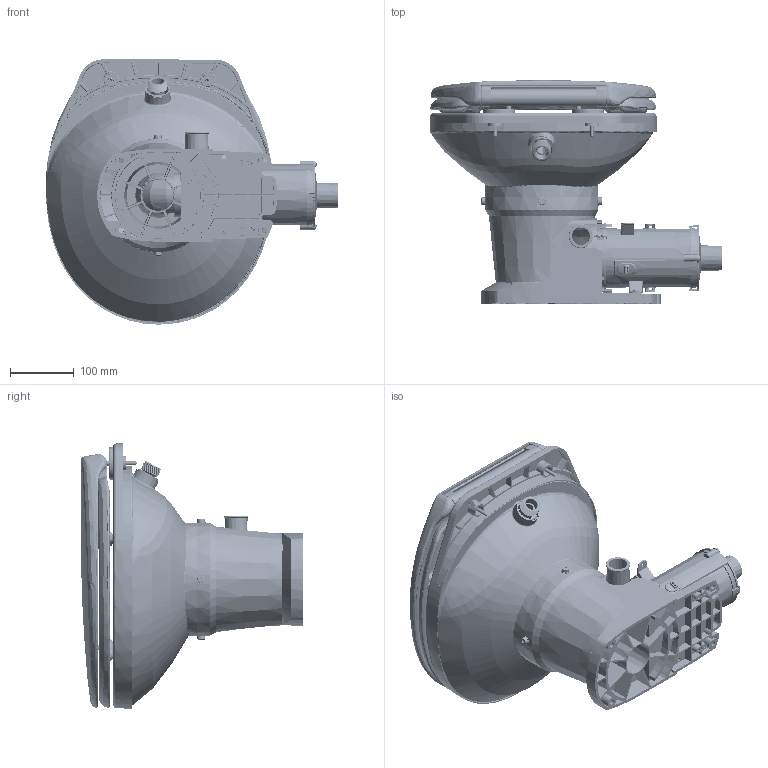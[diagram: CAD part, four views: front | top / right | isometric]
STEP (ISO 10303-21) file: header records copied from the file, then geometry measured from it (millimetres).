
FILE_DESCRIPTION (( 'STEP AP214' ), '1' );
FILE_NAME ('Maxlite +S moteur gauche b.STEP', '2019-02-27T13:09:49', ( '' ), ( '' ), 'SwSTEP 2.0', 'SolidWorks 2018', '' );
FILE_SCHEMA (( 'AUTOMOTIVE_DESIGN' ));
Length unit declared in the file: millimetre
Products named in the file (1): Maxlite +S moteur gauche b
Bounding box: 460.38 x 350.76 x 417.45 mm (x, y, z)
Volume: 4209497.5 mm3; surface area: 1848424 mm2
Topology: 42 solids, 42 shells, 4840 faces, 12904 edges, 8187 vertices
Faces by surface type: plane 1610, bspline 1158, cylinder 1089, cone 732, torus 168, sphere 83
Full cylindrical faces by diameter (mm): 4 x6, 5.5 x1, 21.9 x1, 33.7 x1, 58.9 x1, 73.6 x1, 93 x1, 100.5 x2
Entity records: 374110 total; most frequent: CARTESIAN_POINT 215832, ORIENTED_EDGE 25404, DIRECTION 17213, EDGE_CURVE 12702, VERTEX_POINT 8160, AXIS2_PLACEMENT_3D 6601, EDGE_LOOP 5192, UNCERTAINTY_MEASURE_WITH_UNIT 4884
